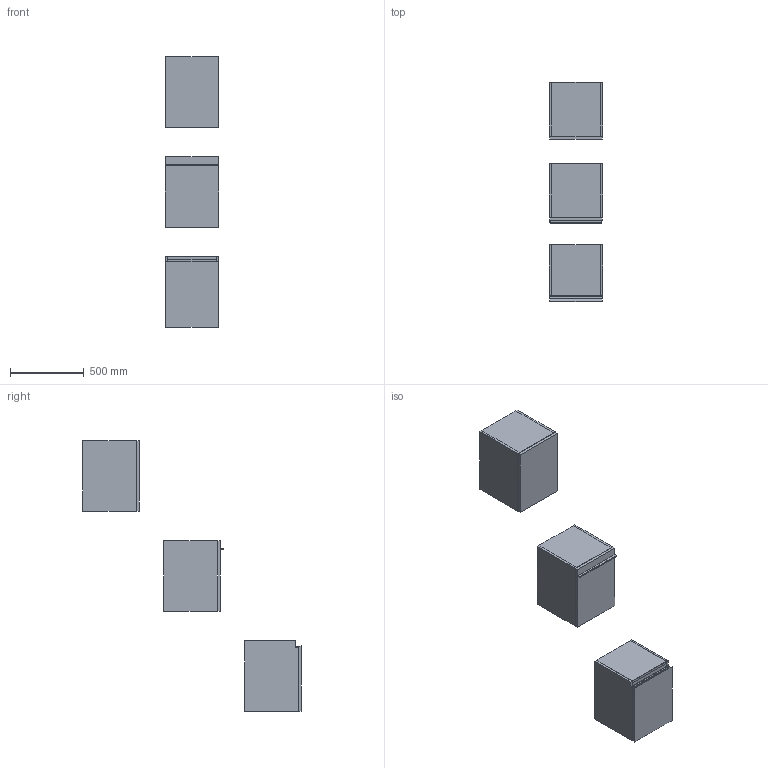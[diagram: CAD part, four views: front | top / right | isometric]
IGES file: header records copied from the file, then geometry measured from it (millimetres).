
Start section: Data from Parasolid IGES Translator 19.0.9, Copyright(c) 2006 Siemens PL M Software. All Rights Reserved.
Global section: file name: noorth-SI-H 48 D 38,8 W 36_8451.igs; native system: By Siemens PLM Incorporated; preprocessor: XPlus GENERIC/IGES 19.0.9; author: Noname; organization: Noname; date: 20200601.103519; units: metre
Bounding box: 360.01 x 1485.1 x 1840 mm (x, y, z)
Volume: 39018896.6 mm3; surface area: 5870439.2 mm2
Topology: 20 solids, 20 shells, 178 faces, 382 edges, 234 vertices
Faces by surface type: plane 134, extrusion 16, bspline 16, cylinder 12
